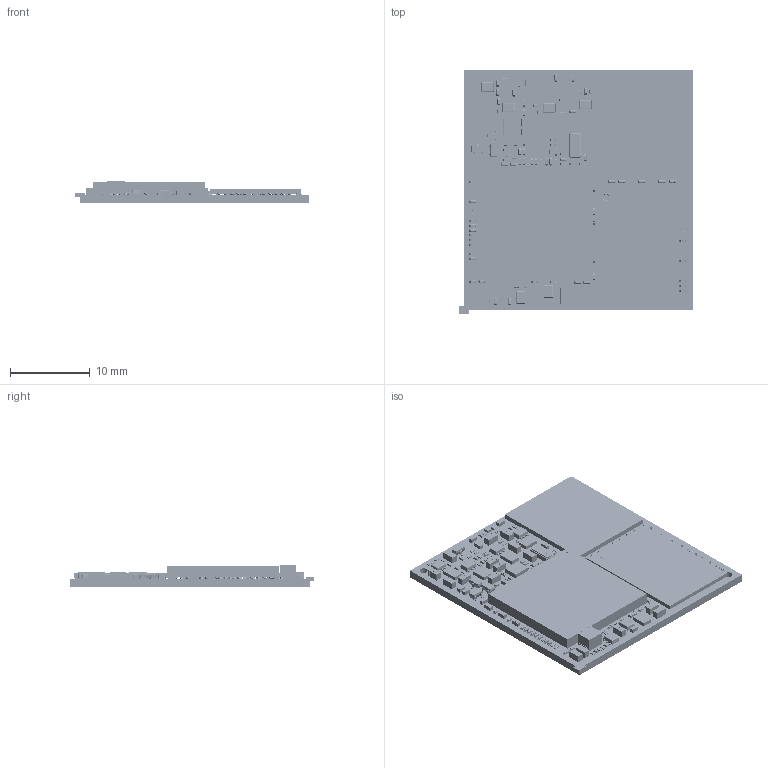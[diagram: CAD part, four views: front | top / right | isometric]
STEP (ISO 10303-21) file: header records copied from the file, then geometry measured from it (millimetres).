
FILE_DESCRIPTION(/* description */ ('PCB Design'),/* implementation_level */ '2;1');
FILE_NAME(/* name */ 'LGA1126B_V1',/* time_stamp */ '2026-05-21T12:36:27+08:00',/* author */ (''),/* organization */ (''),/* preprocessor_version */ 'ST-DEVELOPER v16',/* originating_system */ 'allegro_17.2S053',/* authorisation */ '');
FILE_SCHEMA (('AUTOMOTIVE_DESIGN { 1 0 10303 214 3 1 1 }'));
Products named in the file (242): LGA1126B_V1; BOARD_OUTLINE; COMPONENTS; DFN1X1-4L; LED0402; LGA238_30X28_75; WLCSP4_0R80X0R80X0R50; IND_252010; BGA153_13RX11R5X0R9_2L; SOT563; SOT_523; BGA491_14R0X14R0X1R00; XTAL4_2P1X1P7MM_SM; CRY3015; IND_201610; TP_0R50; R0201; R0402; C0603; C0201; C0402; BGA200_15R00X10R00X0R90; 4103C97D-EB63-4E83-ACC5-F80EC647EA4C; User Library-INDM2520X190N; 58673B8F-7CB6-4A58-80C6-4C79EC9FD135; 4E357751-62F2-4C9E-89FE-D179AAC9DFAF; 9374BE2C-ED46-4905-B2DF-BD476E2613E9; 4A0CA5B7-EB1C-4D5D-925A-C0890F0C80A3; 0637D9F9-BE46-411F-B9CE-197B637E80A1; Assem1; core; Pad; 677F34B6-DF4C-4A28-84A3-75D1813A5E2A; 0; CR1005-04021; C0603-1; User Library-User Library-0201_Cap; SC0402; Part_147_15; Part_147_171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
Assembly tree (392 placements, depth 5):
  LGA1126B_V1
    BOARD_OUTLINE
    COMPONENTS
      DFN1X1-4L
      LED0402
      LGA238_30X28_75
      WLCSP4_0R80X0R80X0R50
        4103C97D-EB63-4E83-ACC5-F80EC647EA4C
      IND_252010
        User Library-INDM2520X190N
      BGA153_13RX11R5X0R9_2L
        58673B8F-7CB6-4A58-80C6-4C79EC9FD135
      SOT563  x6
        4E357751-62F2-4C9E-89FE-D179AAC9DFAF
      SOT_523  x4
        9374BE2C-ED46-4905-B2DF-BD476E2613E9
      BGA491_14R0X14R0X1R00
        4A0CA5B7-EB1C-4D5D-925A-C0890F0C80A3
      XTAL4_2P1X1P7MM_SM
      CRY3015
        0637D9F9-BE46-411F-B9CE-197B637E80A1
      IND_201610  x5
        Assem1
      TP_0R50
      R0201  x40
        677F34B6-DF4C-4A28-84A3-75D1813A5E2A
      R0402  x3
        0
        CR1005-04021
      C0603  x16
        0
        C0603-1
      C0201  x67
        User Library-User Library-0201_Cap
      C0402  x20
        0
        SC0402
      BGA200_15R00X10R00X0R90
        User Library-IS46LQ32128A-062BLA
          Part_147
          Part_147_2
          Part_147_3
          Part_147_4
          Part_147_5
          Part_147_6
          Part_147_7
          Part_147_8
          Part_147_9
          Part_147_10
          Part_147_11
          Part_147_12
          Part_147_13
          Part_147_14
          Part_147_15
          Part_147_16
          Part_147_17
          Part_147_18
          Part_147_19
          Part_147_20
          Part_147_21
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Bounding box: 29.37 x 30.5 x 2.83 mm (x, y, z)
Volume: 534.5 mm3; surface area: 5666.9 mm2
Topology: 1125 solids, 1211 shells, 32059 faces, 80514 edges, 50892 vertices
Faces by surface type: bspline 14821, plane 12565, cylinder 2895, sphere 1766, torus 12
Entity records: 136325 total; most frequent: CARTESIAN_POINT 54585, ORIENTED_EDGE 10113, DIRECTION 9951, EDGE_CURVE 5067, AXIS2_PLACEMENT_3D 4370, VERTEX_POINT 3901, EDGE_LOOP 3402, FACE_OUTER_BOUND 2943
